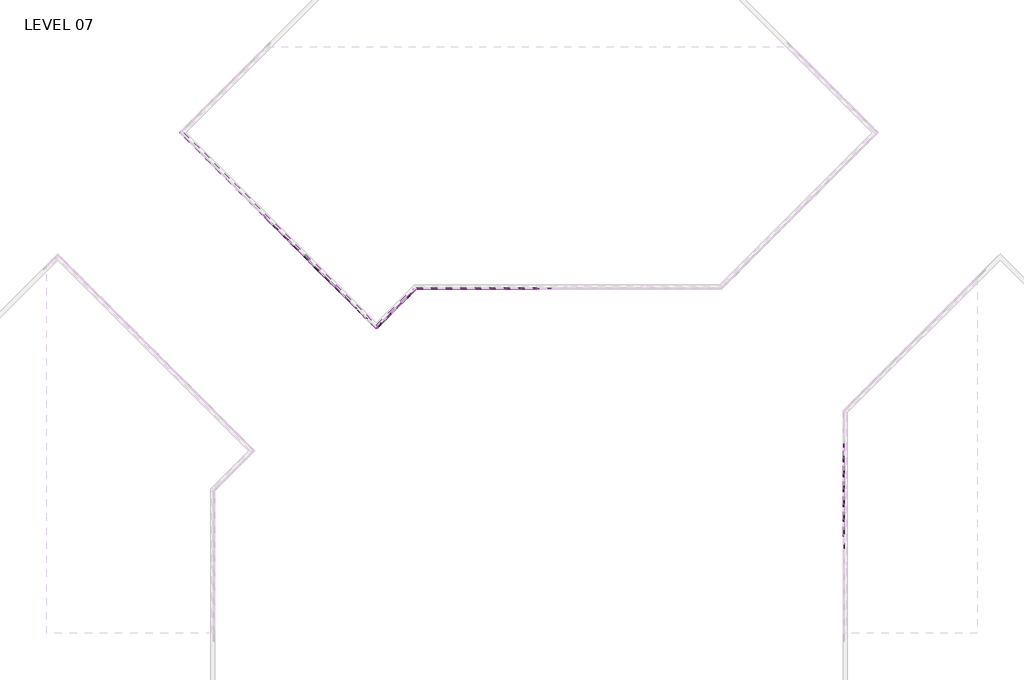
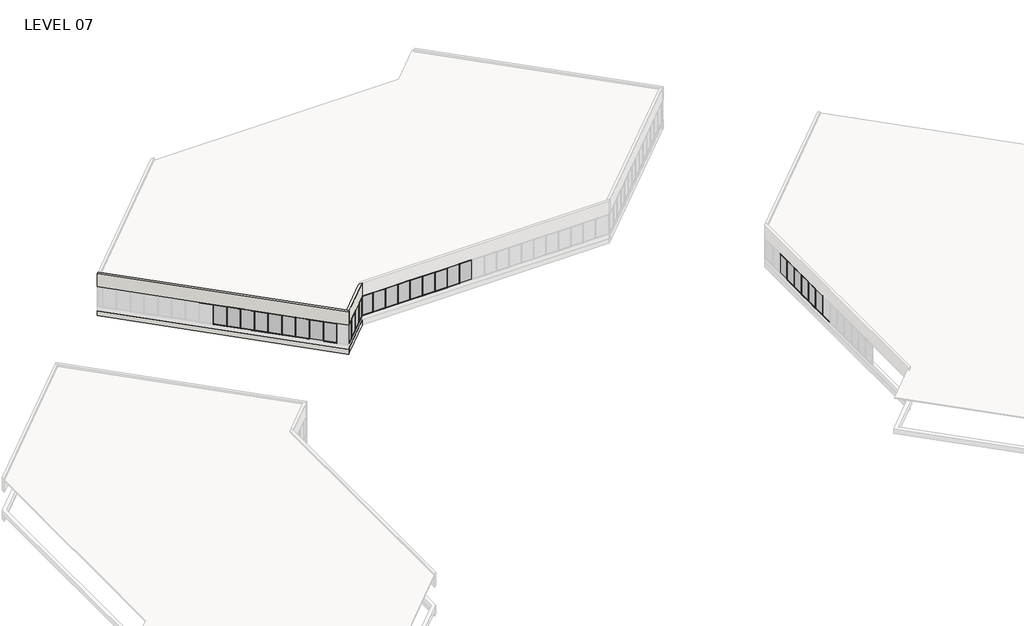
# One storey, part 13 of 18: 81 members, 28 plates, 4 walls.
"""IFC4 building model written with IfcOpenShell, lengths in millimetres."""

from ifc_helpers import new_model, si_unit, frame, origin, place, context, project, spatial, polyline, outline, extrude, faceted_brep, transform, mapped, element, save
from components import member_5247f267, member_e44af9ab, member_800970d4, member_45eb7f2e, member_910c08c9, member_dd9f6d43, plate_67294edd, plate_9c66726c, plate_88df3e37, plate_129ab9d0, plate_6ecefdb5

model = new_model("IFC4")

# Units and contexts
model_context = context("Model", 3, world=origin())
ifc_project = project(units=[si_unit("LENGTHUNIT", "METRE", prefix="MILLI")], contexts=[model_context])

# Site, building, storey
site = spatial("IfcSite", under=ifc_project)
building = spatial("IfcBuilding", under=site)
storey = spatial("IfcBuildingStorey", under=building, Name="LEVEL 07", Elevation=23368.0)

# Members
placement = place(None, origin())
member_shape = member_5247f267(model_context)
element("IfcMember", 1, ObjectType="Rectangular Mullion : 2\" x 4.5\" rectangular", at=placement, inside=storey, context=model_context, shape_type="MappedRepresentation", body=[
    mapped(member_shape, transform((6200.5095063, 93365.536663, 23368.0), x_axis=(0.0, 0.0, -1.0), y_axis=(-0.7071067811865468, -0.7071067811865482, 0.0), z_axis=(-0.7071067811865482, 0.7071067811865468, 0.0))),
])
element("IfcMember", 2, ObjectType="Rectangular Mullion : 2\" x 4.5\" rectangular", at=placement, inside=storey, context=model_context, shape_type="MappedRepresentation", body=[
    mapped(member_shape, transform((7278.1402408, 92287.9059285, 23368.0), x_axis=(0.0, 0.0, -1.0), y_axis=(-0.7071067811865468, -0.7071067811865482, 0.0), z_axis=(-0.7071067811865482, 0.7071067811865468, 0.0))),
])
element("IfcMember", 3, ObjectType="Rectangular Mullion : 2\" x 4.5\" rectangular", at=placement, inside=storey, context=model_context, shape_type="MappedRepresentation", body=[
    mapped(member_shape, transform((8355.7709754, 91210.2751939, 23368.0), x_axis=(0.0, 0.0, -1.0), y_axis=(-0.7071067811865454, -0.7071067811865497, 0.0), z_axis=(-0.7071067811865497, 0.7071067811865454, 0.0))),
])
element("IfcMember", 4, ObjectType="Rectangular Mullion : 2\" x 4.5\" rectangular", at=placement, inside=storey, context=model_context, shape_type="MappedRepresentation", body=[
    mapped(member_shape, transform((9433.4017099, 90132.6444594, 23368.0), x_axis=(0.0, 0.0, -1.0), y_axis=(-0.7071067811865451, -0.7071067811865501, 0.0), z_axis=(-0.7071067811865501, 0.7071067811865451, 0.0))),
])
element("IfcMember", 5, ObjectType="Rectangular Mullion : 2\" x 4.5\" rectangular", at=placement, inside=storey, context=model_context, shape_type="MappedRepresentation", body=[
    mapped(member_shape, transform((10511.0324444, 89055.0137249, 23368.0), x_axis=(0.0, 0.0, -1.0), y_axis=(-0.7071067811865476, -0.7071067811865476, 0.0), z_axis=(-0.7071067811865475, 0.7071067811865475, 0.0))),
])
element("IfcMember", 6, ObjectType="Rectangular Mullion : 2\" x 4.5\" rectangular", at=placement, inside=storey, context=model_context, shape_type="MappedRepresentation", body=[
    mapped(member_shape, transform((12666.2939135, 86899.7522558, 23368.0), x_axis=(0.0, 0.0, -1.0), y_axis=(-0.7071067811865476, -0.7071067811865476, 0.0), z_axis=(-0.7071067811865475, 0.7071067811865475, 0.0))),
])
element("IfcMember", 7, ObjectType="Rectangular Mullion : 2\" x 4.5\" rectangular", at=placement, inside=storey, context=model_context, shape_type="MappedRepresentation", body=[
    mapped(member_shape, transform((15463.8924855, 85858.0386548, 23368.0), x_axis=(0.0, 0.0, -1.0), y_axis=(0.7071067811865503, -0.7071067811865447, 0.0), z_axis=(-0.7071067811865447, -0.7071067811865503, 0.0))),
])
element("IfcMember", 8, ObjectType="Rectangular Mullion : 2\" x 4.5\" rectangular", at=placement, inside=storey, context=model_context, shape_type="MappedRepresentation", body=[
    mapped(member_shape, transform((16541.5232201, 86935.6693894, 23368.0), x_axis=(0.0, 0.0, -1.0), y_axis=(0.7071067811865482, -0.7071067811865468, 0.0), z_axis=(-0.7071067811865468, -0.7071067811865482, 0.0))),
])
element("IfcMember", 9, ObjectType="Rectangular Mullion : 2\" x 4.5\" rectangular", at=placement, inside=storey, context=model_context, shape_type="MappedRepresentation", body=[
    mapped(member_shape, transform((30562.55, 88955.8023049, 23368.0), x_axis=(0.0, 0.0, -1.0), y_axis=(0.0, 1.0, 0.0), z_axis=(1.0, 0.0, 0.0))),
])
element("IfcMember", 10, ObjectType="Rectangular Mullion : 2\" x 4.5\" rectangular", at=placement, inside=storey, context=model_context, shape_type="MappedRepresentation", body=[
    mapped(member_shape, transform((29038.55, 88955.8023049, 23368.0), x_axis=(0.0, 0.0, -1.0), y_axis=(0.0, 1.0, 0.0), z_axis=(1.0, 0.0, 0.0))),
])
element("IfcMember", 11, ObjectType="Rectangular Mullion : 2\" x 4.5\" rectangular", at=placement, inside=storey, context=model_context, shape_type="MappedRepresentation", body=[
    mapped(member_shape, transform((27514.55, 88955.8023049, 23368.0), x_axis=(0.0, 0.0, -1.0), y_axis=(0.0, 1.0, 0.0), z_axis=(1.0, 0.0, 0.0))),
])
element("IfcMember", 12, ObjectType="Rectangular Mullion : 2\" x 4.5\" rectangular", at=placement, inside=storey, context=model_context, shape_type="MappedRepresentation", body=[
    mapped(member_shape, transform((24466.55, 88955.8023049, 23368.0), x_axis=(0.0, 0.0, -1.0), y_axis=(0.0, 1.0, 0.0), z_axis=(1.0, 0.0, 0.0))),
])
element("IfcMember", 13, ObjectType="Rectangular Mullion : 2\" x 4.5\" rectangular", at=placement, inside=storey, context=model_context, shape_type="MappedRepresentation", body=[
    mapped(member_shape, transform((22942.55, 88955.8023049, 23368.0), x_axis=(0.0, 0.0, -1.0), y_axis=(0.0, 1.0, 0.0), z_axis=(1.0, 0.0, 0.0))),
])
element("IfcMember", 14, ObjectType="Rectangular Mullion : 2\" x 4.5\" rectangular", at=placement, inside=storey, context=model_context, shape_type="MappedRepresentation", body=[
    mapped(member_shape, transform((21418.55, 88955.8023049, 23368.0), x_axis=(0.0, 0.0, -1.0), y_axis=(0.0, 1.0, 0.0), z_axis=(1.0, 0.0, 0.0))),
])
element("IfcMember", 15, ObjectType="Rectangular Mullion : 2\" x 4.5\" rectangular", at=placement, inside=storey, context=model_context, shape_type="MappedRepresentation", body=[
    mapped(member_shape, transform((25990.55, 88955.8023049, 23368.0), x_axis=(0.0, 0.0, -1.0), y_axis=(0.0, 1.0, 0.0), z_axis=(1.0, 0.0, 0.0))),
])
element("IfcMember", 16, ObjectType="Rectangular Mullion : 2\" x 4.5\" rectangular", at=placement, inside=storey, context=model_context, shape_type="MappedRepresentation", body=[
    mapped(member_shape, transform((4009.6843581, 95556.3618112, 25958.8), x_axis=(0.0, 0.0, 1.0), y_axis=(-0.7071067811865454, -0.7071067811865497, 0.0), z_axis=(0.7071067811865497, -0.7071067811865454, 0.0))),
])
element("IfcMember", 17, ObjectType="Rectangular Mullion : 2\" x 4.5\" rectangular", at=placement, inside=storey, context=model_context, shape_type="MappedRepresentation", body=[
    mapped(member_shape, transform((7242.2192164, 92323.8269529, 25958.8), x_axis=(0.0, 0.0, 1.0), y_axis=(-0.7071067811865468, -0.7071067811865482, 0.0), z_axis=(0.7071067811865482, -0.7071067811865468, 0.0))),
])
element("IfcMember", 18, ObjectType="Rectangular Mullion : 2\" x 4.5\" rectangular", at=placement, inside=storey, context=model_context, shape_type="MappedRepresentation", body=[
    mapped(member_shape, transform((8319.8499509, 91246.1962184, 25958.8), x_axis=(0.0, 0.0, 1.0), y_axis=(-0.7071067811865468, -0.7071067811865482, 0.0), z_axis=(0.7071067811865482, -0.7071067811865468, 0.0))),
])
element("IfcMember", 19, ObjectType="Rectangular Mullion : 2\" x 4.5\" rectangular", at=placement, inside=storey, context=model_context, shape_type="MappedRepresentation", body=[
    mapped(member_shape, transform((9397.4806854, 90168.5654839, 25958.8), x_axis=(0.0, 0.0, 1.0), y_axis=(-0.7071067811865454, -0.7071067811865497, 0.0), z_axis=(0.7071067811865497, -0.7071067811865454, 0.0))),
])
element("IfcMember", 20, ObjectType="Rectangular Mullion : 2\" x 4.5\" rectangular", at=placement, inside=storey, context=model_context, shape_type="MappedRepresentation", body=[
    mapped(member_shape, transform((10475.1114199, 89090.9347494, 25958.8), x_axis=(0.0, 0.0, 1.0), y_axis=(-0.7071067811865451, -0.7071067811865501, 0.0), z_axis=(0.7071067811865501, -0.7071067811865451, 0.0))),
])
element("IfcMember", 21, ObjectType="Rectangular Mullion : 2\" x 4.5\" rectangular", at=placement, inside=storey, context=model_context, shape_type="MappedRepresentation", body=[
    mapped(member_shape, transform((11552.7421545, 88013.3040148, 25958.8), x_axis=(0.0, 0.0, 1.0), y_axis=(-0.7071067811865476, -0.7071067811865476, 0.0), z_axis=(0.7071067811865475, -0.7071067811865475, 0.0))),
])
element("IfcMember", 22, ObjectType="Rectangular Mullion : 2\" x 4.5\" rectangular", at=placement, inside=storey, context=model_context, shape_type="MappedRepresentation", body=[
    mapped(member_shape, transform((12630.372889, 86935.6732803, 25958.8), x_axis=(0.0, 0.0, 1.0), y_axis=(-0.7071067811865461, -0.707106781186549, 0.0), z_axis=(0.707106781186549, -0.7071067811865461, 0.0))),
])
element("IfcMember", 23, ObjectType="Rectangular Mullion : 2\" x 4.5\" rectangular", at=placement, inside=storey, context=model_context, shape_type="MappedRepresentation", body=[
    mapped(member_shape, transform((17583.2329301, 87977.3790994, 25958.8), x_axis=(0.0, 0.0, 1.0), y_axis=(0.7071067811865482, -0.7071067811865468, 0.0), z_axis=(0.7071067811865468, 0.7071067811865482, 0.0))),
])
element("IfcMember", 24, ObjectType="Rectangular Mullion : 2\" x 4.5\" rectangular", at=placement, inside=storey, context=model_context, shape_type="MappedRepresentation", body=[
    mapped(member_shape, transform((16505.6021956, 86899.7483649, 25958.8), x_axis=(0.0, 0.0, 1.0), y_axis=(0.7071067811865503, -0.7071067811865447, 0.0), z_axis=(0.7071067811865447, 0.7071067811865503, 0.0))),
])
element("IfcMember", 25, ObjectType="Rectangular Mullion : 2\" x 4.5\" rectangular", at=placement, inside=storey, context=model_context, shape_type="MappedRepresentation", body=[
    mapped(member_shape, transform((30613.35, 88955.8023049, 25958.8), x_axis=(0.0, 0.0, 1.0), y_axis=(0.0, 1.0, 0.0), z_axis=(-1.0, 0.0, 0.0))),
])
element("IfcMember", 26, ObjectType="Rectangular Mullion : 2\" x 4.5\" rectangular", at=placement, inside=storey, context=model_context, shape_type="MappedRepresentation", body=[
    mapped(member_shape, transform((29089.35, 88955.8023049, 25958.8), x_axis=(0.0, 0.0, 1.0), y_axis=(0.0, 1.0, 0.0), z_axis=(-1.0, 0.0, 0.0))),
])
element("IfcMember", 27, ObjectType="Rectangular Mullion : 2\" x 4.5\" rectangular", at=placement, inside=storey, context=model_context, shape_type="MappedRepresentation", body=[
    mapped(member_shape, transform((27565.35, 88955.8023049, 25958.8), x_axis=(0.0, 0.0, 1.0), y_axis=(0.0, 1.0, 0.0), z_axis=(-1.0, 0.0, 0.0))),
])
element("IfcMember", 28, ObjectType="Rectangular Mullion : 2\" x 4.5\" rectangular", at=placement, inside=storey, context=model_context, shape_type="MappedRepresentation", body=[
    mapped(member_shape, transform((24517.35, 88955.8023049, 25958.8), x_axis=(0.0, 0.0, 1.0), y_axis=(0.0, 1.0, 0.0), z_axis=(-1.0, 0.0, 0.0))),
])
element("IfcMember", 29, ObjectType="Rectangular Mullion : 2\" x 4.5\" rectangular", at=placement, inside=storey, context=model_context, shape_type="MappedRepresentation", body=[
    mapped(member_shape, transform((22993.35, 88955.8023049, 25958.8), x_axis=(0.0, 0.0, 1.0), y_axis=(0.0, 1.0, 0.0), z_axis=(-1.0, 0.0, 0.0))),
])
element("IfcMember", 30, ObjectType="Rectangular Mullion : 2\" x 4.5\" rectangular", at=placement, inside=storey, context=model_context, shape_type="MappedRepresentation", body=[
    mapped(member_shape, transform((21469.35, 88955.8023049, 25958.8), x_axis=(0.0, 0.0, 1.0), y_axis=(0.0, 1.0, 0.0), z_axis=(-1.0, 0.0, 0.0))),
])
element("IfcMember", 31, ObjectType="Rectangular Mullion : 2\" x 4.5\" rectangular", at=placement, inside=storey, context=model_context, shape_type="MappedRepresentation", body=[
    mapped(member_shape, transform((19945.35, 88955.8023049, 25958.8), x_axis=(0.0, 0.0, 1.0), y_axis=(0.0, 1.0, 0.0), z_axis=(-1.0, 0.0, 0.0))),
])
element("IfcMember", 32, ObjectType="Rectangular Mullion : 2\" x 4.5\" rectangular", at=placement, inside=storey, context=model_context, shape_type="MappedRepresentation", body=[
    mapped(member_shape, transform((26041.35, 88955.8023049, 25958.8), x_axis=(0.0, 0.0, 1.0), y_axis=(0.0, 1.0, 0.0), z_axis=(-1.0, 0.0, 0.0))),
])
member_2_shape = member_e44af9ab(model_context)
element("IfcMember", 33, ObjectType="Rectangular Mullion : 2\" x 4.5\" rectangular", at=placement, inside=storey, context=model_context, shape_type="MappedRepresentation", body=[
    mapped(member_2_shape, transform((4027.6448703, 95538.401299, 23368.0), x_axis=(0.7071067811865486, -0.7071067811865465, 0.0), y_axis=(-0.7071067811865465, -0.7071067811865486, 0.0), z_axis=(0.0, 0.0, -1.0))),
])
element("IfcMember", 34, ObjectType="Rectangular Mullion : 2\" x 4.5\" rectangular", at=placement, inside=storey, context=model_context, shape_type="MappedRepresentation", body=[
    mapped(member_2_shape, transform((6182.5489941, 93383.4971752, 23368.0), x_axis=(0.7071067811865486, -0.7071067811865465, 0.0), y_axis=(-0.7071067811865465, -0.7071067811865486, 0.0), z_axis=(0.0, 0.0, -1.0))),
])
element("IfcMember", 35, ObjectType="Rectangular Mullion : 2\" x 4.5\" rectangular", at=placement, inside=storey, context=model_context, shape_type="MappedRepresentation", body=[
    mapped(member_2_shape, transform((7260.1797286, 92305.8664407, 23368.0), x_axis=(0.7071067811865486, -0.7071067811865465, 0.0), y_axis=(-0.7071067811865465, -0.7071067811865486, 0.0), z_axis=(0.0, 0.0, -1.0))),
])
element("IfcMember", 36, ObjectType="Rectangular Mullion : 2\" x 4.5\" rectangular", at=placement, inside=storey, context=model_context, shape_type="MappedRepresentation", body=[
    mapped(member_2_shape, transform((8337.8104631, 91228.2357062, 23368.0), x_axis=(0.7071067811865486, -0.7071067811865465, 0.0), y_axis=(-0.7071067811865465, -0.7071067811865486, 0.0), z_axis=(0.0, 0.0, -1.0))),
])
element("IfcMember", 37, ObjectType="Rectangular Mullion : 2\" x 4.5\" rectangular", at=placement, inside=storey, context=model_context, shape_type="MappedRepresentation", body=[
    mapped(member_2_shape, transform((5105.0969322, 94460.9492371, 23368.0), x_axis=(0.7071067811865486, -0.7071067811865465, 0.0), y_axis=(-0.7071067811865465, -0.7071067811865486, 0.0), z_axis=(0.0, 0.0, -1.0))),
])
element("IfcMember", 38, ObjectType="Rectangular Mullion : 2\" x 4.5\" rectangular", at=placement, inside=storey, context=model_context, shape_type="MappedRepresentation", body=[
    mapped(member_2_shape, transform((9415.4411977, 90150.6049716, 23368.0), x_axis=(0.7071067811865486, -0.7071067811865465, 0.0), y_axis=(-0.7071067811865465, -0.7071067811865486, 0.0), z_axis=(0.0, 0.0, -1.0))),
])
element("IfcMember", 39, ObjectType="Rectangular Mullion : 2\" x 4.5\" rectangular", at=placement, inside=storey, context=model_context, shape_type="MappedRepresentation", body=[
    mapped(member_2_shape, transform((10493.0719322, 89072.9742371, 23368.0), x_axis=(0.7071067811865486, -0.7071067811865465, 0.0), y_axis=(-0.7071067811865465, -0.7071067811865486, 0.0), z_axis=(0.0, 0.0, -1.0))),
])
element("IfcMember", 40, ObjectType="Rectangular Mullion : 2\" x 4.5\" rectangular", at=placement, inside=storey, context=model_context, shape_type="MappedRepresentation", body=[
    mapped(member_2_shape, transform((12648.3334012, 86917.7127681, 23368.0), x_axis=(0.7071067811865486, -0.7071067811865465, 0.0), y_axis=(-0.7071067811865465, -0.7071067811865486, 0.0), z_axis=(0.0, 0.0, -1.0))),
])
element("IfcMember", 41, ObjectType="Rectangular Mullion : 2\" x 4.5\" rectangular", at=placement, inside=storey, context=model_context, shape_type="MappedRepresentation", body=[
    mapped(member_2_shape, transform((15445.9319733, 85840.0781426, 23368.0), x_axis=(0.7071067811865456, 0.7071067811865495, 0.0), y_axis=(0.7071067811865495, -0.7071067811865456, 0.0), z_axis=(0.0, 0.0, -1.0))),
])
element("IfcMember", 42, ObjectType="Rectangular Mullion : 2\" x 4.5\" rectangular", at=placement, inside=storey, context=model_context, shape_type="MappedRepresentation", body=[
    mapped(member_2_shape, transform((17601.1934424, 87995.3396117, 23368.0), x_axis=(0.7071067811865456, 0.7071067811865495, 0.0), y_axis=(0.7071067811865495, -0.7071067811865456, 0.0), z_axis=(0.0, 0.0, -1.0))),
])
element("IfcMember", 43, ObjectType="Rectangular Mullion : 2\" x 4.5\" rectangular", at=placement, inside=storey, context=model_context, shape_type="MappedRepresentation", body=[
    mapped(member_2_shape, transform((16523.5627078, 86917.7088771, 23368.0), x_axis=(0.7071067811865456, 0.7071067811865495, 0.0), y_axis=(0.7071067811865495, -0.7071067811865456, 0.0), z_axis=(0.0, 0.0, -1.0))),
])
element("IfcMember", 44, ObjectType="Rectangular Mullion : 2\" x 4.5\" rectangular", at=placement, inside=storey, context=model_context, shape_type="MappedRepresentation", body=[
    mapped(member_2_shape, transform((30587.95, 88955.8023049, 23368.0), x_axis=(-1.0, 0.0, 0.0), y_axis=(0.0, 1.0, 0.0), z_axis=(0.0, 0.0, -1.0))),
])
element("IfcMember", 45, ObjectType="Rectangular Mullion : 2\" x 4.5\" rectangular", at=placement, inside=storey, context=model_context, shape_type="MappedRepresentation", body=[
    mapped(member_2_shape, transform((29063.95, 88955.8023049, 23368.0), x_axis=(-1.0, 0.0, 0.0), y_axis=(0.0, 1.0, 0.0), z_axis=(0.0, 0.0, -1.0))),
])
element("IfcMember", 46, ObjectType="Rectangular Mullion : 2\" x 4.5\" rectangular", at=placement, inside=storey, context=model_context, shape_type="MappedRepresentation", body=[
    mapped(member_2_shape, transform((27539.95, 88955.8023049, 23368.0), x_axis=(-1.0, 0.0, 0.0), y_axis=(0.0, 1.0, 0.0), z_axis=(0.0, 0.0, -1.0))),
])
element("IfcMember", 47, ObjectType="Rectangular Mullion : 2\" x 4.5\" rectangular", at=placement, inside=storey, context=model_context, shape_type="MappedRepresentation", body=[
    mapped(member_2_shape, transform((24491.95, 88955.8023049, 23368.0), x_axis=(-1.0, 0.0, 0.0), y_axis=(0.0, 1.0, 0.0), z_axis=(0.0, 0.0, -1.0))),
])
element("IfcMember", 48, ObjectType="Rectangular Mullion : 2\" x 4.5\" rectangular", at=placement, inside=storey, context=model_context, shape_type="MappedRepresentation", body=[
    mapped(member_2_shape, transform((22967.95, 88955.8023049, 23368.0), x_axis=(-1.0, 0.0, 0.0), y_axis=(0.0, 1.0, 0.0), z_axis=(0.0, 0.0, -1.0))),
])
element("IfcMember", 49, ObjectType="Rectangular Mullion : 2\" x 4.5\" rectangular", at=placement, inside=storey, context=model_context, shape_type="MappedRepresentation", body=[
    mapped(member_2_shape, transform((21443.95, 88955.8023049, 23368.0), x_axis=(-1.0, 0.0, 0.0), y_axis=(0.0, 1.0, 0.0), z_axis=(0.0, 0.0, -1.0))),
])
element("IfcMember", 50, ObjectType="Rectangular Mullion : 2\" x 4.5\" rectangular", at=placement, inside=storey, context=model_context, shape_type="MappedRepresentation", body=[
    mapped(member_2_shape, transform((19919.95, 88955.8023049, 23368.0), x_axis=(-1.0, 0.0, 0.0), y_axis=(0.0, 1.0, 0.0), z_axis=(0.0, 0.0, -1.0))),
])
element("IfcMember", 51, ObjectType="Rectangular Mullion : 2\" x 4.5\" rectangular", at=placement, inside=storey, context=model_context, shape_type="MappedRepresentation", body=[
    mapped(member_2_shape, transform((26015.95, 88955.8023049, 23368.0), x_axis=(-1.0, 0.0, 0.0), y_axis=(0.0, 1.0, 0.0), z_axis=(0.0, 0.0, -1.0))),
])
member_3_shape = member_800970d4(model_context)
element("IfcMember", 52, ObjectType="Rectangular Mullion : 2\" x 4.5\" rectangular", at=placement, inside=storey, context=model_context, shape_type="MappedRepresentation", body=[
    mapped(member_3_shape, transform((18561.6561356, 88955.8023049, 23368.0), x_axis=(0.7071067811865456, 0.7071067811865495, 0.0), y_axis=(0.7071067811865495, -0.7071067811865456, 0.0), z_axis=(0.0, 0.0, -1.0))),
])
element("IfcMember", 53, ObjectType="Rectangular Mullion : 2\" x 4.5\" rectangular", at=placement, inside=storey, context=model_context, shape_type="MappedRepresentation", body=[
    mapped(member_3_shape, transform((18561.6561356, 88955.8023049, 23368.0), x_axis=(-1.0, 0.0, 0.0), y_axis=(0.0, 1.0, 0.0), z_axis=(0.0, 0.0, -1.0))),
])
member_4_shape = member_45eb7f2e(model_context)
element("IfcMember", 54, ObjectType="Rectangular Mullion : 2\" x 4.5\" rectangular", at=placement, inside=storey, context=model_context, shape_type="MappedRepresentation", body=[
    mapped(member_4_shape, transform((18525.7351111, 88919.8812804, 25958.8), x_axis=(0.0, 0.0, 1.0), y_axis=(0.7071067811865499, -0.7071067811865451, 0.0), z_axis=(0.7071067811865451, 0.7071067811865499, 0.0))),
])
element("IfcMember", 55, ObjectType="Rectangular Mullion : 2\" x 4.5\" rectangular", at=placement, inside=storey, context=model_context, shape_type="MappedRepresentation", body=[
    mapped(member_4_shape, transform((18612.4561356, 88955.8023049, 25958.8), x_axis=(0.0, 0.0, 1.0), y_axis=(0.0, 1.0, 0.0), z_axis=(-1.0, 0.0, 0.0))),
])
element("IfcMember", 56, ObjectType="Rectangular Mullion : 2\" x 4.5\" rectangular", at=placement, inside=storey, context=model_context, shape_type="MappedRepresentation", body=[
    mapped(member_4_shape, transform((17619.1539546, 88013.3001239, 23368.0), x_axis=(0.0, 0.0, -1.0), y_axis=(0.7071067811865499, -0.7071067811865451, 0.0), z_axis=(-0.7071067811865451, -0.7071067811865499, 0.0))),
])
element("IfcMember", 57, ObjectType="Rectangular Mullion : 2\" x 4.5\" rectangular", at=placement, inside=storey, context=model_context, shape_type="MappedRepresentation", body=[
    mapped(member_4_shape, transform((19894.55, 88955.8023049, 23368.0), x_axis=(0.0, 0.0, -1.0), y_axis=(0.0, 1.0, 0.0), z_axis=(1.0, 0.0, 0.0))),
])
member_5_shape = member_910c08c9(model_context)
element("IfcMember", 58, ObjectType="Rectangular Mullion : 2\" x 4.5\" rectangular", at=placement, inside=storey, context=model_context, shape_type="MappedRepresentation", body=[
    mapped(member_5_shape, transform((6164.5884818, 93401.4576875, 25958.8), x_axis=(0.0, 0.0, 1.0), y_axis=(-0.7071067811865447, -0.7071067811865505, 0.0), z_axis=(0.7071067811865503, -0.7071067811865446, 0.0))),
])
element("IfcMember", 59, ObjectType="Rectangular Mullion : 2\" x 4.5\" rectangular", at=placement, inside=storey, context=model_context, shape_type="MappedRepresentation", body=[
    mapped(member_5_shape, transform((5087.1364199, 94478.9097494, 25958.8), x_axis=(0.0, 0.0, 1.0), y_axis=(-0.7071067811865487, -0.7071067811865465, 0.0), z_axis=(0.7071067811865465, -0.7071067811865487, 0.0))),
])
element("IfcMember", 60, ObjectType="Rectangular Mullion : 2\" x 4.5\" rectangular", at=placement, inside=storey, context=model_context, shape_type="MappedRepresentation", body=[
    mapped(member_5_shape, transform((4045.6053825, 95520.4407868, 23368.0), x_axis=(0.0, 0.0, -1.0), y_axis=(-0.7071067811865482, -0.7071067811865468, 0.0), z_axis=(-0.7071067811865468, 0.7071067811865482, 0.0))),
])
element("IfcMember", 61, ObjectType="Rectangular Mullion : 2\" x 4.5\" rectangular", at=placement, inside=storey, context=model_context, shape_type="MappedRepresentation", body=[
    mapped(member_5_shape, transform((5123.0574444, 94442.9887249, 23368.0), x_axis=(0.0, 0.0, -1.0), y_axis=(-0.7071067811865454, -0.7071067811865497, 0.0), z_axis=(-0.7071067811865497, 0.7071067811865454, 0.0))),
])
member_6_shape = member_dd9f6d43(model_context)
element("IfcMember", 62, ObjectType="Rectangular Mullion : 2\" x 4.5\" rectangular", at=placement, inside=storey, context=model_context, shape_type="MappedRepresentation", body=[
    mapped(member_6_shape, transform((15427.9714611, 85822.1176304, 25958.8), x_axis=(0.0, 0.0, 1.0), y_axis=(0.7071067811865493, -0.7071067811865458, 0.0), z_axis=(0.7071067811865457, 0.7071067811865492, 0.0))),
])
element("IfcMember", 63, ObjectType="Rectangular Mullion : 2\" x 4.5\" rectangular", at=placement, inside=storey, context=model_context, shape_type="MappedRepresentation", body=[
    mapped(member_6_shape, transform((14621.8710245, 85016.0171938, 23368.0), x_axis=(0.0, 0.0, -1.0), y_axis=(0.7071067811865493, -0.7071067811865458, 0.0), z_axis=(-0.7071067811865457, -0.7071067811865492, 0.0))),
])
element("IfcMember", 64, ObjectType="Rectangular Mullion : 2\" x 4.5\" rectangular", at=placement, inside=storey, context=model_context, shape_type="MappedRepresentation", body=[
    mapped(member_shape, transform((61263.7847164, 65925.3675885, 25958.8), x_axis=(0.0, 0.0, 1.0), y_axis=(-1.0, 0.0, 0.0), z_axis=(0.0, -1.0, 0.0))),
])
element("IfcMember", 65, ObjectType="Rectangular Mullion : 2\" x 4.5\" rectangular", at=placement, inside=storey, context=model_context, shape_type="MappedRepresentation", body=[
    mapped(member_shape, transform((61263.7847164, 64401.3675885, 25958.8), x_axis=(0.0, 0.0, 1.0), y_axis=(-1.0, 0.0, 0.0), z_axis=(0.0, -1.0, 0.0))),
])
element("IfcMember", 66, ObjectType="Rectangular Mullion : 2\" x 4.5\" rectangular", at=placement, inside=storey, context=model_context, shape_type="MappedRepresentation", body=[
    mapped(member_shape, transform((61263.7847164, 67449.3675885, 25958.8), x_axis=(0.0, 0.0, 1.0), y_axis=(-1.0, 0.0, 0.0), z_axis=(0.0, -1.0, 0.0))),
])
element("IfcMember", 67, ObjectType="Rectangular Mullion : 2\" x 4.5\" rectangular", at=placement, inside=storey, context=model_context, shape_type="MappedRepresentation", body=[
    mapped(member_shape, transform((61263.7847164, 68973.3675885, 25958.8), x_axis=(0.0, 0.0, 1.0), y_axis=(-1.0, 0.0, 0.0), z_axis=(0.0, -1.0, 0.0))),
])
element("IfcMember", 68, ObjectType="Rectangular Mullion : 2\" x 4.5\" rectangular", at=placement, inside=storey, context=model_context, shape_type="MappedRepresentation", body=[
    mapped(member_shape, transform((61263.7847164, 70497.3675885, 25958.8), x_axis=(0.0, 0.0, 1.0), y_axis=(-1.0, 0.0, 0.0), z_axis=(0.0, -1.0, 0.0))),
])
element("IfcMember", 69, ObjectType="Rectangular Mullion : 2\" x 4.5\" rectangular", at=placement, inside=storey, context=model_context, shape_type="MappedRepresentation", body=[
    mapped(member_shape, transform((61263.7847164, 72021.3675885, 25958.8), x_axis=(0.0, 0.0, 1.0), y_axis=(-1.0, 0.0, 0.0), z_axis=(0.0, -1.0, 0.0))),
])
element("IfcMember", 70, ObjectType="Rectangular Mullion : 2\" x 4.5\" rectangular", at=placement, inside=storey, context=model_context, shape_type="MappedRepresentation", body=[
    mapped(member_shape, transform((61263.7847164, 65874.5675885, 23368.0), x_axis=(0.0, 0.0, -1.0), y_axis=(-1.0, 0.0, 0.0), z_axis=(0.0, 1.0, 0.0))),
])
element("IfcMember", 71, ObjectType="Rectangular Mullion : 2\" x 4.5\" rectangular", at=placement, inside=storey, context=model_context, shape_type="MappedRepresentation", body=[
    mapped(member_shape, transform((61263.7847164, 64350.5675885, 23368.0), x_axis=(0.0, 0.0, -1.0), y_axis=(-1.0, 0.0, 0.0), z_axis=(0.0, 1.0, 0.0))),
])
element("IfcMember", 72, ObjectType="Rectangular Mullion : 2\" x 4.5\" rectangular", at=placement, inside=storey, context=model_context, shape_type="MappedRepresentation", body=[
    mapped(member_shape, transform((61263.7847164, 67398.5675885, 23368.0), x_axis=(0.0, 0.0, -1.0), y_axis=(-1.0, 0.0, 0.0), z_axis=(0.0, 1.0, 0.0))),
])
element("IfcMember", 73, ObjectType="Rectangular Mullion : 2\" x 4.5\" rectangular", at=placement, inside=storey, context=model_context, shape_type="MappedRepresentation", body=[
    mapped(member_shape, transform((61263.7847164, 68922.5675885, 23368.0), x_axis=(0.0, 0.0, -1.0), y_axis=(-1.0, 0.0, 0.0), z_axis=(0.0, 1.0, 0.0))),
])
element("IfcMember", 74, ObjectType="Rectangular Mullion : 2\" x 4.5\" rectangular", at=placement, inside=storey, context=model_context, shape_type="MappedRepresentation", body=[
    mapped(member_shape, transform((61263.7847164, 70446.5675885, 23368.0), x_axis=(0.0, 0.0, -1.0), y_axis=(-1.0, 0.0, 0.0), z_axis=(0.0, 1.0, 0.0))),
])
element("IfcMember", 75, ObjectType="Rectangular Mullion : 2\" x 4.5\" rectangular", at=placement, inside=storey, context=model_context, shape_type="MappedRepresentation", body=[
    mapped(member_shape, transform((61263.7847164, 71970.5675885, 23368.0), x_axis=(0.0, 0.0, -1.0), y_axis=(-1.0, 0.0, 0.0), z_axis=(0.0, 1.0, 0.0))),
])
element("IfcMember", 76, ObjectType="Rectangular Mullion : 2\" x 4.5\" rectangular", at=placement, inside=storey, context=model_context, shape_type="MappedRepresentation", body=[
    mapped(member_2_shape, transform((61263.7847164, 65899.9675885, 23368.0), x_axis=(0.0, -1.0, 0.0), y_axis=(-1.0, 0.0, 0.0), z_axis=(0.0, 0.0, -1.0))),
])
element("IfcMember", 77, ObjectType="Rectangular Mullion : 2\" x 4.5\" rectangular", at=placement, inside=storey, context=model_context, shape_type="MappedRepresentation", body=[
    mapped(member_2_shape, transform((61263.7847164, 64375.9675885, 23368.0), x_axis=(0.0, -1.0, 0.0), y_axis=(-1.0, 0.0, 0.0), z_axis=(0.0, 0.0, -1.0))),
])
element("IfcMember", 78, ObjectType="Rectangular Mullion : 2\" x 4.5\" rectangular", at=placement, inside=storey, context=model_context, shape_type="MappedRepresentation", body=[
    mapped(member_2_shape, transform((61263.7847164, 67423.9675885, 23368.0), x_axis=(0.0, -1.0, 0.0), y_axis=(-1.0, 0.0, 0.0), z_axis=(0.0, 0.0, -1.0))),
])
element("IfcMember", 79, ObjectType="Rectangular Mullion : 2\" x 4.5\" rectangular", at=placement, inside=storey, context=model_context, shape_type="MappedRepresentation", body=[
    mapped(member_2_shape, transform((61263.7847164, 68947.9675885, 23368.0), x_axis=(0.0, -1.0, 0.0), y_axis=(-1.0, 0.0, 0.0), z_axis=(0.0, 0.0, -1.0))),
])
element("IfcMember", 80, ObjectType="Rectangular Mullion : 2\" x 4.5\" rectangular", at=placement, inside=storey, context=model_context, shape_type="MappedRepresentation", body=[
    mapped(member_2_shape, transform((61263.7847164, 70471.9675885, 23368.0), x_axis=(0.0, -1.0, 0.0), y_axis=(-1.0, 0.0, 0.0), z_axis=(0.0, 0.0, -1.0))),
])
element("IfcMember", 81, ObjectType="Rectangular Mullion : 2\" x 4.5\" rectangular", at=placement, inside=storey, context=model_context, shape_type="MappedRepresentation", body=[
    mapped(member_2_shape, transform((61263.7847164, 71995.9675885, 23368.0), x_axis=(0.0, -1.0, 0.0), y_axis=(-1.0, 0.0, 0.0), z_axis=(0.0, 0.0, -1.0))),
])

# Plates
plate_shape = plate_67294edd(model_context)
element("IfcPlate", 82, ObjectType="System Panel : 1/4\" Glass", at=placement, inside=storey, context=model_context, shape_type="MappedRepresentation", body=[
    mapped(plate_shape, transform((6721.3643613, 92844.681808, 23418.8), x_axis=(0.7071067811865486, -0.7071067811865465, 0.0), y_axis=(0.7071067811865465, 0.7071067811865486, 0.0), z_axis=(0.0, 0.0, 1.0))),
])
element("IfcPlate", 83, ObjectType="System Panel : 1/4\" Glass", at=placement, inside=storey, context=model_context, shape_type="MappedRepresentation", body=[
    mapped(plate_shape, transform((7798.9950959, 91767.0510734, 23418.8), x_axis=(0.7071067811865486, -0.7071067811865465, 0.0), y_axis=(0.7071067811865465, 0.7071067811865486, 0.0), z_axis=(0.0, 0.0, 1.0))),
])
element("IfcPlate", 84, ObjectType="System Panel : 1/4\" Glass", at=placement, inside=storey, context=model_context, shape_type="MappedRepresentation", body=[
    mapped(plate_shape, transform((8876.6258304, 90689.4203389, 23418.8), x_axis=(0.7071067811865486, -0.7071067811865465, 0.0), y_axis=(0.7071067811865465, 0.7071067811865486, 0.0), z_axis=(0.0, 0.0, 1.0))),
])
element("IfcPlate", 85, ObjectType="System Panel : 1/4\" Glass", at=placement, inside=storey, context=model_context, shape_type="MappedRepresentation", body=[
    mapped(plate_shape, transform((9954.2565649, 89611.7896044, 23418.8), x_axis=(0.7071067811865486, -0.7071067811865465, 0.0), y_axis=(0.7071067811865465, 0.7071067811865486, 0.0), z_axis=(0.0, 0.0, 1.0))),
])
element("IfcPlate", 86, ObjectType="System Panel : 1/4\" Glass", at=placement, inside=storey, context=model_context, shape_type="MappedRepresentation", body=[
    mapped(plate_shape, transform((11031.8872995, 88534.1588698, 23418.8), x_axis=(0.7071067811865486, -0.7071067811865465, 0.0), y_axis=(0.7071067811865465, 0.7071067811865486, 0.0), z_axis=(0.0, 0.0, 1.0))),
])
element("IfcPlate", 87, ObjectType="System Panel : 1/4\" Glass", at=placement, inside=storey, context=model_context, shape_type="MappedRepresentation", body=[
    mapped(plate_shape, transform((12109.518034, 87456.5281353, 23418.8), x_axis=(0.7071067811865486, -0.7071067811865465, 0.0), y_axis=(0.7071067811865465, 0.7071067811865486, 0.0), z_axis=(0.0, 0.0, 1.0))),
])
element("IfcPlate", 88, ObjectType="System Panel : 1/4\" Glass", at=placement, inside=storey, context=model_context, shape_type="MappedRepresentation", body=[
    mapped(plate_shape, transform((13187.1487685, 86378.8974008, 23418.8), x_axis=(0.7071067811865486, -0.7071067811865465, 0.0), y_axis=(0.7071067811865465, 0.7071067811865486, 0.0), z_axis=(0.0, 0.0, 1.0))),
])
element("IfcPlate", 89, ObjectType="System Panel : 1/4\" Glass", at=placement, inside=storey, context=model_context, shape_type="MappedRepresentation", body=[
    mapped(plate_shape, transform((15984.7473406, 86378.8935099, 23418.8), x_axis=(0.7071067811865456, 0.7071067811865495, 0.0), y_axis=(-0.7071067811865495, 0.7071067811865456, 0.0), z_axis=(0.0, 0.0, 1.0))),
])
element("IfcPlate", 90, ObjectType="System Panel : 1/4\" Glass", at=placement, inside=storey, context=model_context, shape_type="MappedRepresentation", body=[
    mapped(plate_shape, transform((17062.3780751, 87456.5242444, 23418.8), x_axis=(0.7071067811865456, 0.7071067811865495, 0.0), y_axis=(-0.7071067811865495, 0.7071067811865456, 0.0), z_axis=(0.0, 0.0, 1.0))),
])
element("IfcPlate", 91, ObjectType="System Panel : 1/4\" Glass", at=placement, inside=storey, context=model_context, shape_type="MappedRepresentation", body=[
    mapped(plate_shape, transform((31349.95, 88955.8023049, 23418.8), x_axis=(-1.0, 0.0, 0.0), y_axis=(0.0, -1.0, 0.0), z_axis=(0.0, 0.0, 1.0))),
])
element("IfcPlate", 92, ObjectType="System Panel : 1/4\" Glass", at=placement, inside=storey, context=model_context, shape_type="MappedRepresentation", body=[
    mapped(plate_shape, transform((29825.95, 88955.8023049, 23418.8), x_axis=(-1.0, 0.0, 0.0), y_axis=(0.0, -1.0, 0.0), z_axis=(0.0, 0.0, 1.0))),
])
element("IfcPlate", 93, ObjectType="System Panel : 1/4\" Glass", at=placement, inside=storey, context=model_context, shape_type="MappedRepresentation", body=[
    mapped(plate_shape, transform((28301.95, 88955.8023049, 23418.8), x_axis=(-1.0, 0.0, 0.0), y_axis=(0.0, -1.0, 0.0), z_axis=(0.0, 0.0, 1.0))),
])
element("IfcPlate", 94, ObjectType="System Panel : 1/4\" Glass", at=placement, inside=storey, context=model_context, shape_type="MappedRepresentation", body=[
    mapped(plate_shape, transform((26777.95, 88955.8023049, 23418.8), x_axis=(-1.0, 0.0, 0.0), y_axis=(0.0, -1.0, 0.0), z_axis=(0.0, 0.0, 1.0))),
])
element("IfcPlate", 95, ObjectType="System Panel : 1/4\" Glass", at=placement, inside=storey, context=model_context, shape_type="MappedRepresentation", body=[
    mapped(plate_shape, transform((23729.95, 88955.8023049, 23418.8), x_axis=(-1.0, 0.0, 0.0), y_axis=(0.0, -1.0, 0.0), z_axis=(0.0, 0.0, 1.0))),
])
element("IfcPlate", 96, ObjectType="System Panel : 1/4\" Glass", at=placement, inside=storey, context=model_context, shape_type="MappedRepresentation", body=[
    mapped(plate_shape, transform((22205.95, 88955.8023049, 23418.8), x_axis=(-1.0, 0.0, 0.0), y_axis=(0.0, -1.0, 0.0), z_axis=(0.0, 0.0, 1.0))),
])
element("IfcPlate", 97, ObjectType="System Panel : 1/4\" Glass", at=placement, inside=storey, context=model_context, shape_type="MappedRepresentation", body=[
    mapped(plate_shape, transform((20681.95, 88955.8023049, 23418.8), x_axis=(-1.0, 0.0, 0.0), y_axis=(0.0, -1.0, 0.0), z_axis=(0.0, 0.0, 1.0))),
])
element("IfcPlate", 98, ObjectType="System Panel : 1/4\" Glass", at=placement, inside=storey, context=model_context, shape_type="MappedRepresentation", body=[
    mapped(plate_shape, transform((25253.95, 88955.8023049, 23418.8), x_axis=(-1.0, 0.0, 0.0), y_axis=(0.0, -1.0, 0.0), z_axis=(0.0, 0.0, 1.0))),
])
plate_2_shape = plate_9c66726c(model_context)
element("IfcPlate", 99, ObjectType="System Panel : 1/4\" Glass", at=placement, inside=storey, context=model_context, shape_type="MappedRepresentation", body=[
    mapped(plate_2_shape, transform((19253.5030678, 88955.8023049, 23418.8), x_axis=(-1.0, 0.0, 0.0), y_axis=(0.0, -1.0, 0.0), z_axis=(0.0, 0.0, 1.0))),
])
plate_3_shape = plate_88df3e37(model_context)
element("IfcPlate", 100, ObjectType="System Panel : 1/4\" Glass", at=placement, inside=storey, context=model_context, shape_type="MappedRepresentation", body=[
    mapped(plate_3_shape, transform((4566.3709012, 94999.6752681, 23418.8), x_axis=(0.7071067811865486, -0.7071067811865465, 0.0), y_axis=(0.7071067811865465, 0.7071067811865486, 0.0), z_axis=(0.0, 0.0, 1.0))),
])
element("IfcPlate", 101, ObjectType="System Panel : 1/4\" Glass", at=placement, inside=storey, context=model_context, shape_type="MappedRepresentation", body=[
    mapped(plate_3_shape, transform((5643.8229631, 93922.2232062, 23418.8), x_axis=(0.7071067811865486, -0.7071067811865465, 0.0), y_axis=(0.7071067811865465, 0.7071067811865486, 0.0), z_axis=(0.0, 0.0, 1.0))),
])
plate_4_shape = plate_129ab9d0(model_context)
element("IfcPlate", 102, ObjectType="System Panel : 1/4\" Glass", at=placement, inside=storey, context=model_context, shape_type="MappedRepresentation", body=[
    mapped(plate_4_shape, transform((18072.4445329, 88466.5907022, 23418.8), x_axis=(0.7071067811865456, 0.7071067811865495, 0.0), y_axis=(-0.7071067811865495, 0.7071067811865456, 0.0), z_axis=(0.0, 0.0, 1.0))),
])
plate_5_shape = plate_6ecefdb5(model_context)
element("IfcPlate", 103, ObjectType="System Panel : 1/4\" Glass", at=placement, inside=storey, context=model_context, shape_type="MappedRepresentation", body=[
    mapped(plate_5_shape, transform((15024.9212428, 85419.0674121, 23418.8), x_axis=(0.7071067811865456, 0.7071067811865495, 0.0), y_axis=(-0.7071067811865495, 0.7071067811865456, 0.0), z_axis=(0.0, 0.0, 1.0))),
])
element("IfcPlate", 104, ObjectType="System Panel : 1/4\" Glass", at=placement, inside=storey, context=model_context, shape_type="MappedRepresentation", body=[
    mapped(plate_shape, transform((61263.7847164, 65137.9675885, 23418.8), x_axis=(0.0, -1.0, 0.0), y_axis=(1.0, 0.0, 0.0), z_axis=(0.0, 0.0, 1.0))),
])
element("IfcPlate", 105, ObjectType="System Panel : 1/4\" Glass", at=placement, inside=storey, context=model_context, shape_type="MappedRepresentation", body=[
    mapped(plate_shape, transform((61263.7847164, 66661.9675885, 23418.8), x_axis=(0.0, -1.0, 0.0), y_axis=(1.0, 0.0, 0.0), z_axis=(0.0, 0.0, 1.0))),
])
element("IfcPlate", 106, ObjectType="System Panel : 1/4\" Glass", at=placement, inside=storey, context=model_context, shape_type="MappedRepresentation", body=[
    mapped(plate_shape, transform((61263.7847164, 68185.9675885, 23418.8), x_axis=(0.0, -1.0, 0.0), y_axis=(1.0, 0.0, 0.0), z_axis=(0.0, 0.0, 1.0))),
])
element("IfcPlate", 107, ObjectType="System Panel : 1/4\" Glass", at=placement, inside=storey, context=model_context, shape_type="MappedRepresentation", body=[
    mapped(plate_shape, transform((61263.7847164, 69709.9675885, 23418.8), x_axis=(0.0, -1.0, 0.0), y_axis=(1.0, 0.0, 0.0), z_axis=(0.0, 0.0, 1.0))),
])
element("IfcPlate", 108, ObjectType="System Panel : 1/4\" Glass", at=placement, inside=storey, context=model_context, shape_type="MappedRepresentation", body=[
    mapped(plate_shape, transform((61263.7847164, 71233.9675885, 23418.8), x_axis=(0.0, -1.0, 0.0), y_axis=(1.0, 0.0, 0.0), z_axis=(0.0, 0.0, 1.0))),
])
element("IfcPlate", 109, ObjectType="System Panel : 1/4\" Glass", at=placement, inside=storey, context=model_context, shape_type="MappedRepresentation", body=[
    mapped(plate_shape, transform((61263.7847164, 72757.9675885, 23418.8), x_axis=(0.0, -1.0, 0.0), y_axis=(1.0, 0.0, 0.0), z_axis=(0.0, 0.0, 1.0))),
])

# Walls
element("IfcWall", 110, ObjectType="01-CONCRETE-12", at=placement, inside=storey, context=model_context, shape_type="Brep", body=[
    faceted_brep([(14801.4761469, 85114.8000111, 22186.9), (14585.95, 85330.326158, 22186.9), (-4625.6011469, 104541.8773049, 22186.9), (-4841.1272938, 104757.4034518, 22186.9), (-4841.1272938, 104757.4034518, 22809.2), (-4625.6011469, 104541.8773049, 22809.2), (14585.95, 85330.326158, 22809.2), (14801.4761469, 85114.8000111, 22809.2), (14585.95, 84899.2738642, 22186.9), (14585.95, 84899.2738642, 22809.2), (-5056.6534407, 104541.8773049, 22809.2), (-5056.6534407, 104541.8773049, 22186.9)], [[[0, 1, 2, 3, 4, 5, 6, 7]], [[8, 9, 10, 11]], [[3, 2, 1, 0, 8, 11]], [[7, 6, 5, 4, 10, 9]], [[0, 7, 9, 8]], [[4, 3, 11, 10]]]),
])
element("IfcWall", 111, ObjectType="01-CONCRETE-12", at=placement, inside=storey, context=model_context, shape_type="SweptSolid", body=[
    extrude(outline(polyline([(14585.95, 85330.326158), (18154.2761469, 88898.6523049), (18585.3284407, 88898.6523049), (14801.4761469, 85114.8000111), (14585.95, 85330.326158)])), frame((0.0, 0.0, 22186.9), z_axis=(0.0, 0.0, 1.0), x_axis=(1.0, 0.0, 0.0)), (0.0, 0.0, 1.0), 622.3),
])
element("IfcWall", 112, ObjectType="01-CONCRETE-12", at=placement, inside=storey, context=model_context, shape_type="Brep", body=[
    faceted_brep([(14801.4761469, 85114.8000111, 25958.8), (14585.95, 85330.326158, 25958.8), (-4625.6011469, 104541.8773049, 25958.8), (-4841.1272938, 104757.4034518, 25958.8), (-4841.1272938, 104757.4034518, 27673.3), (-4625.6011469, 104541.8773049, 27673.3), (14585.95, 85330.326158, 27673.3), (14801.4761469, 85114.8000111, 27673.3), (14585.95, 84899.2738642, 25958.8), (14585.95, 84899.2738642, 27673.3), (-5056.6534407, 104541.8773049, 27673.3), (-5056.6534407, 104541.8773049, 25958.8)], [[[0, 1, 2, 3, 4, 5, 6, 7]], [[8, 9, 10, 11]], [[3, 2, 1, 0, 8, 11]], [[7, 6, 5, 4, 10, 9]], [[0, 7, 9, 8]], [[4, 3, 11, 10]]]),
])
element("IfcWall", 113, ObjectType="01-CONCRETE-12", at=placement, inside=storey, context=model_context, shape_type="SweptSolid", body=[
    extrude(outline(polyline([(14585.95, 85330.326158), (18154.2761469, 88898.6523049), (18585.3284407, 88898.6523049), (14801.4761469, 85114.8000111), (14585.95, 85330.326158)])), frame((0.0, 0.0, 25958.8), z_axis=(0.0, 0.0, 1.0), x_axis=(1.0, 0.0, 0.0)), (0.0, 0.0, 1.0), 1714.5),
])

save(model, "model.ifc")
